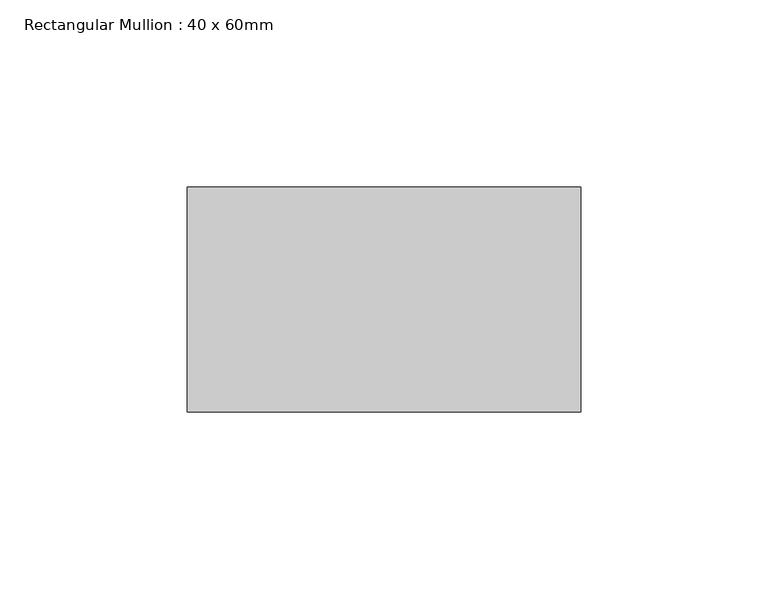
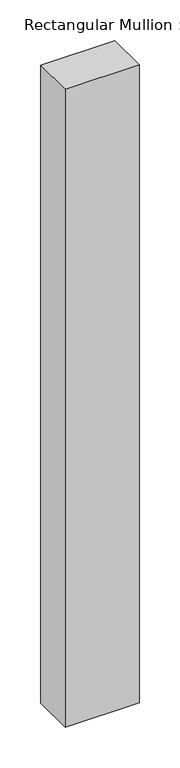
"""IFC4 building model written with IfcOpenShell, lengths in millimetres: member geometry, Rectangular Mullion : 40 x 60mm."""

from ifc_helpers import new_model, si_unit, frame, origin, place, context, project, spatial, polyline, outline, extrude, source, transform, mapped, element, save


def rectangular_mullion_40_x_60mm_9dea23e0(model_context):
    return source(origin(), model_context, "Body", "SweptSolid", [
        extrude(outline(polyline([(0.0, -10.0), (0.0, -70.0), (-105.0, -70.0), (-105.0, -10.0), (0.0, -10.0)])), frame((0.0, 0.0, -956.8573245), z_axis=(0.0, 0.0, 1.0), x_axis=(1.0, 0.0, 0.0)), (0.0, 0.0, 1.0), 956.8573245),
    ])


if __name__ == "__main__":
    model = new_model("IFC4")
    model_context = context("Model", 3, world=origin())
    ifc_project = project(units=[si_unit("LENGTHUNIT", "METRE", prefix="MILLI")], contexts=[model_context])
    site = spatial("IfcSite", under=ifc_project)
    building = spatial("IfcBuilding", under=site)
    placement = place(None, origin())
    rectangular_mullion_40_x_60mm_shape = rectangular_mullion_40_x_60mm_9dea23e0(model_context)
    element("IfcMember", 1, ObjectType="Rectangular Mullion : 40 x 60mm", at=placement, inside=building, context=model_context, shape_type="MappedRepresentation", body=[
        mapped(rectangular_mullion_40_x_60mm_shape, transform((0.0, 0.0, 0.0), x_axis=(1.0, 0.0, 0.0), y_axis=(0.0, 1.0, 0.0), z_axis=(0.0, 0.0, 1.0))),
    ])
    save(model, "model.ifc")
